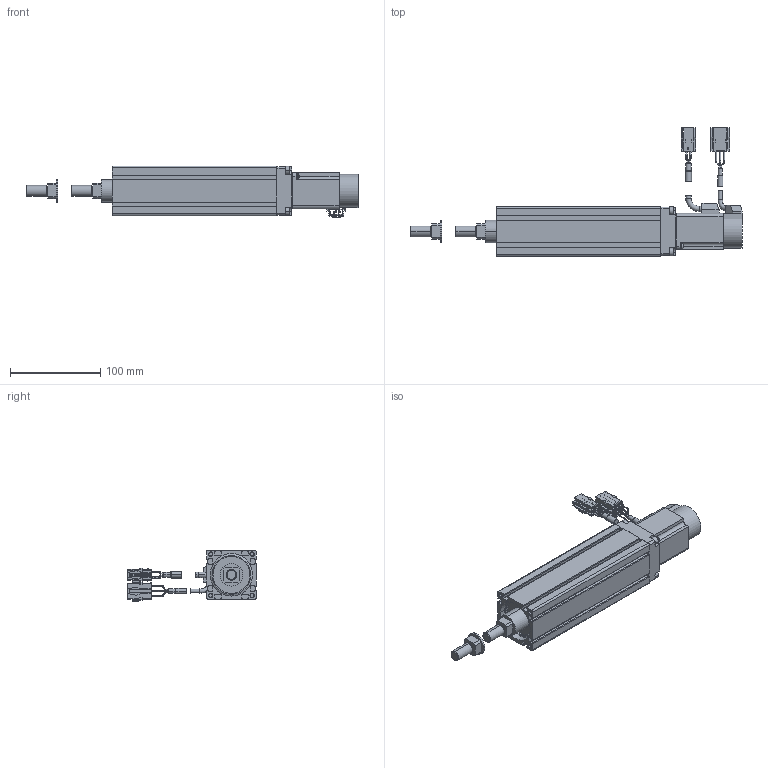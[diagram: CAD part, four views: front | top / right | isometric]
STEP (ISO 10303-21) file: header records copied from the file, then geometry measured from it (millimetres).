
FILE_DESCRIPTION((''),'2;1');
FILE_NAME('BET5E-ST-C_N-05_IGS_PRT','2017-06-18T',(' '),(''),'PRO/ENGINEER BY PARAMETRIC TECHNOLOGY CORPORATION, 2015030','PRO/ENGINEER BY PARAMETRIC TECHNOLOGY CORPORATION, 2015030','');
FILE_SCHEMA(('CONFIG_CONTROL_DESIGN'));
Length unit declared in the file: millimetre
Products named in the file (1): BET5E-ST-C_N-05_IGS_PRT
Bounding box: 368.5 x 142.55 x 57.56 mm (x, y, z)
Volume: 502280.3 mm3; surface area: 147958.2 mm2
Topology: 7 solids, 33 shells, 894 faces, 2311 edges, 1492 vertices
Faces by surface type: plane 557, cylinder 245, torus 66, cone 22, sphere 4
Entity records: 27385 total; most frequent: CARTESIAN_POINT 4975, DIRECTION 4711, ORIENTED_EDGE 4550, EDGE_CURVE 2303, VECTOR 1617, LINE 1617, AXIS2_PLACEMENT_3D 1547, VERTEX_POINT 1492
